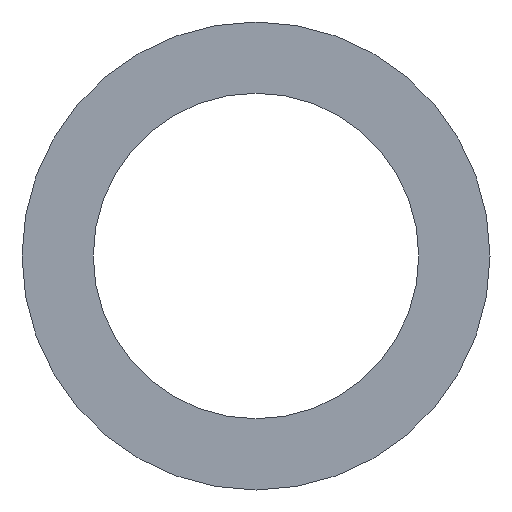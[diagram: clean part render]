
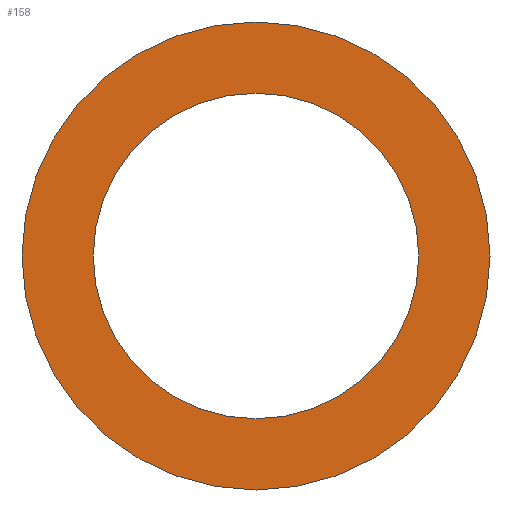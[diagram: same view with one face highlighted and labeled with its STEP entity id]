
A CAD part, front view. The second image highlights one B-rep face of the part: STEP entity #158.
In plain terms, the highlighted planar face has unit normal (0, -1, 0).
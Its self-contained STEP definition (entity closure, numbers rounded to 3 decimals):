
#49 = CYLINDRICAL_SURFACE('',#50,4.6);
#50 = AXIS2_PLACEMENT_3D('',#51,#52,#53);
#51 = CARTESIAN_POINT('',(26.,25.7,39.));
#52 = DIRECTION('',(0.,1.,0.));
#53 = DIRECTION('',(0.,-0.,1.));
#74 = VERTEX_POINT('',#75);
#75 = CARTESIAN_POINT('',(26.,25.7,43.6));
#96 = EDGE_CURVE('',#74,#74,#97,.T.);
#97 = SURFACE_CURVE('',#98,(#103,#110),.PCURVE_S1.);
#98 = CIRCLE('',#99,4.6);
#99 = AXIS2_PLACEMENT_3D('',#100,#101,#102);
#100 = CARTESIAN_POINT('',(26.,25.7,39.));
#101 = DIRECTION('',(0.,1.,0.));
#102 = DIRECTION('',(0.,-0.,1.));
#103 = PCURVE('',#49,#104);
#104 = DEFINITIONAL_REPRESENTATION('',(#105),#109);
#105 = LINE('',#106,#107);
#106 = CARTESIAN_POINT('',(0.,0.));
#107 = VECTOR('',#108,1.);
#108 = DIRECTION('',(1.,0.));
#109 = ( GEOMETRIC_REPRESENTATION_CONTEXT(2) 
PARAMETRIC_REPRESENTATION_CONTEXT() REPRESENTATION_CONTEXT('2D SPACE',''
  ) );
#110 = PCURVE('',#111,#116);
#111 = PLANE('',#112);
#112 = AXIS2_PLACEMENT_3D('',#113,#114,#115);
#113 = CARTESIAN_POINT('',(26.,25.7,39.));
#114 = DIRECTION('',(0.,1.,0.));
#115 = DIRECTION('',(0.,-0.,1.));
#116 = DEFINITIONAL_REPRESENTATION('',(#117),#121);
#117 = CIRCLE('',#118,4.6);
#118 = AXIS2_PLACEMENT_2D('',#119,#120);
#119 = CARTESIAN_POINT('',(0.,0.));
#120 = DIRECTION('',(1.,0.));
#121 = ( GEOMETRIC_REPRESENTATION_CONTEXT(2) 
PARAMETRIC_REPRESENTATION_CONTEXT() REPRESENTATION_CONTEXT('2D SPACE',''
  ) );
#147 = CYLINDRICAL_SURFACE('',#148,3.2);
#148 = AXIS2_PLACEMENT_3D('',#149,#150,#151);
#149 = CARTESIAN_POINT('',(26.,25.69,39.));
#150 = DIRECTION('',(0.,1.,0.));
#151 = DIRECTION('',(0.,-0.,1.));
#158 = ADVANCED_FACE('',(#159,#162),#111,.F.);
#159 = FACE_BOUND('',#160,.F.);
#160 = EDGE_LOOP('',(#161));
#161 = ORIENTED_EDGE('',*,*,#96,.T.);
#162 = FACE_BOUND('',#163,.F.);
#163 = EDGE_LOOP('',(#164));
#164 = ORIENTED_EDGE('',*,*,#165,.F.);
#165 = EDGE_CURVE('',#166,#166,#168,.T.);
#166 = VERTEX_POINT('',#167);
#167 = CARTESIAN_POINT('',(26.,25.7,42.2));
#168 = SURFACE_CURVE('',#169,(#174,#181),.PCURVE_S1.);
#169 = CIRCLE('',#170,3.2);
#170 = AXIS2_PLACEMENT_3D('',#171,#172,#173);
#171 = CARTESIAN_POINT('',(26.,25.7,39.));
#172 = DIRECTION('',(0.,1.,0.));
#173 = DIRECTION('',(0.,-0.,1.));
#174 = PCURVE('',#111,#175);
#175 = DEFINITIONAL_REPRESENTATION('',(#176),#180);
#176 = CIRCLE('',#177,3.2);
#177 = AXIS2_PLACEMENT_2D('',#178,#179);
#178 = CARTESIAN_POINT('',(0.,0.));
#179 = DIRECTION('',(1.,0.));
#180 = ( GEOMETRIC_REPRESENTATION_CONTEXT(2) 
PARAMETRIC_REPRESENTATION_CONTEXT() REPRESENTATION_CONTEXT('2D SPACE',''
  ) );
#181 = PCURVE('',#147,#182);
#182 = DEFINITIONAL_REPRESENTATION('',(#183),#187);
#183 = LINE('',#184,#185);
#184 = CARTESIAN_POINT('',(0.,0.01));
#185 = VECTOR('',#186,1.);
#186 = DIRECTION('',(1.,0.));
#187 = ( GEOMETRIC_REPRESENTATION_CONTEXT(2) 
PARAMETRIC_REPRESENTATION_CONTEXT() REPRESENTATION_CONTEXT('2D SPACE',''
  ) );
